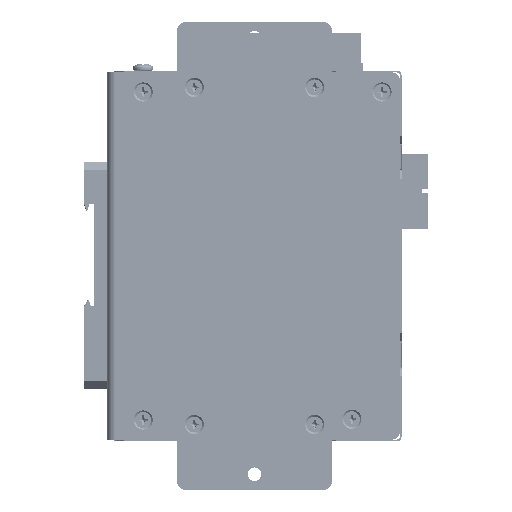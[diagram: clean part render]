
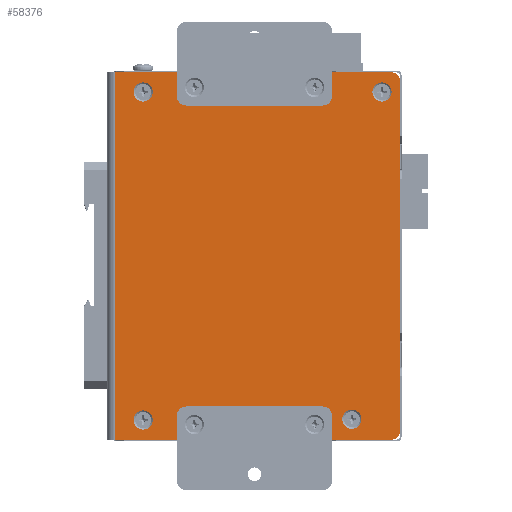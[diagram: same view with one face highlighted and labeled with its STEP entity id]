
A CAD part, left-side view. The second image highlights one B-rep face of the part: STEP entity #58376.
In plain terms, the highlighted planar face has unit normal (-1, 0, 0).
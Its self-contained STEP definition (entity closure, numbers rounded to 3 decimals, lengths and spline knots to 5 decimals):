
#2520=CIRCLE('',#64615,0.00324);
#2521=CIRCLE('',#64616,0.00324);
#2522=CIRCLE('',#64617,0.00324);
#2523=CIRCLE('',#64618,0.00324);
#2524=CIRCLE('',#64619,0.00324);
#2525=CIRCLE('',#64620,0.00324);
#2526=CIRCLE('',#64621,0.00324);
#2527=CIRCLE('',#64622,0.00324);
#2528=CIRCLE('',#64623,0.00254);
#2529=CIRCLE('',#64624,0.00254);
#4840=LINE('',#96763,#11073);
#4844=LINE('',#96772,#11077);
#4850=LINE('',#96786,#11083);
#4852=LINE('',#96808,#11085);
#11073=VECTOR('',#72437,1.);
#11077=VECTOR('',#72443,1.);
#11083=VECTOR('',#72451,1.);
#11085=VECTOR('',#72475,1.);
#20606=ORIENTED_EDGE('',*,*,#35247,.F.);
#20607=ORIENTED_EDGE('',*,*,#35248,.F.);
#20608=ORIENTED_EDGE('',*,*,#35249,.F.);
#20609=ORIENTED_EDGE('',*,*,#35250,.F.);
#20610=ORIENTED_EDGE('',*,*,#35251,.F.);
#20611=ORIENTED_EDGE('',*,*,#35252,.F.);
#20612=ORIENTED_EDGE('',*,*,#35253,.F.);
#20613=ORIENTED_EDGE('',*,*,#35254,.F.);
#20614=ORIENTED_EDGE('',*,*,#35245,.F.);
#20615=ORIENTED_EDGE('',*,*,#35255,.T.);
#20616=ORIENTED_EDGE('',*,*,#35235,.T.);
#20617=ORIENTED_EDGE('',*,*,#35256,.T.);
#20618=ORIENTED_EDGE('',*,*,#35239,.T.);
#20619=ORIENTED_EDGE('',*,*,#35257,.F.);
#35235=EDGE_CURVE('',#43043,#43044,#4840,.T.);
#35239=EDGE_CURVE('',#43047,#43048,#4844,.T.);
#35245=EDGE_CURVE('',#43053,#43054,#4850,.T.);
#35247=EDGE_CURVE('',#43055,#43055,#2520,.T.);
#35248=EDGE_CURVE('',#43056,#43056,#2521,.T.);
#35249=EDGE_CURVE('',#43057,#43057,#2522,.T.);
#35250=EDGE_CURVE('',#43058,#43058,#2523,.T.);
#35251=EDGE_CURVE('',#43059,#43059,#2524,.T.);
#35252=EDGE_CURVE('',#43060,#43060,#2525,.T.);
#35253=EDGE_CURVE('',#43061,#43061,#2526,.T.);
#35254=EDGE_CURVE('',#43062,#43062,#2527,.T.);
#35255=EDGE_CURVE('',#43053,#43043,#2528,.T.);
#35256=EDGE_CURVE('',#43044,#43047,#2529,.T.);
#35257=EDGE_CURVE('',#43054,#43048,#4852,.F.);
#43043=VERTEX_POINT('',#96764);
#43044=VERTEX_POINT('',#96765);
#43047=VERTEX_POINT('',#96773);
#43048=VERTEX_POINT('',#96774);
#43053=VERTEX_POINT('',#96785);
#43054=VERTEX_POINT('',#96787);
#43055=VERTEX_POINT('',#96791);
#43056=VERTEX_POINT('',#96793);
#43057=VERTEX_POINT('',#96795);
#43058=VERTEX_POINT('',#96797);
#43059=VERTEX_POINT('',#96799);
#43060=VERTEX_POINT('',#96801);
#43061=VERTEX_POINT('',#96803);
#43062=VERTEX_POINT('',#96805);
#48815=EDGE_LOOP('',(#20606));
#48816=EDGE_LOOP('',(#20607));
#48817=EDGE_LOOP('',(#20608));
#48818=EDGE_LOOP('',(#20609));
#48819=EDGE_LOOP('',(#20610));
#48820=EDGE_LOOP('',(#20611));
#48821=EDGE_LOOP('',(#20612));
#48822=EDGE_LOOP('',(#20613));
#48823=EDGE_LOOP('',(#20614,#20615,#20616,#20617,#20618,#20619));
#52816=FACE_BOUND('',#48815,.T.);
#52817=FACE_BOUND('',#48816,.T.);
#52818=FACE_BOUND('',#48817,.T.);
#52819=FACE_BOUND('',#48818,.T.);
#52820=FACE_BOUND('',#48819,.T.);
#52821=FACE_BOUND('',#48820,.T.);
#52822=FACE_BOUND('',#48821,.T.);
#52823=FACE_BOUND('',#48822,.T.);
#52824=FACE_BOUND('',#48823,.T.);
#55787=PLANE('',#64614);
#58376=ADVANCED_FACE('',(#52816,#52817,#52818,#52819,#52820,#52821,#52822,
#52823,#52824),#55787,.T.);
#64614=AXIS2_PLACEMENT_3D('',#96789,#72453,#72454);
#64615=AXIS2_PLACEMENT_3D('',#96790,#72455,#72456);
#64616=AXIS2_PLACEMENT_3D('',#96792,#72457,#72458);
#64617=AXIS2_PLACEMENT_3D('',#96794,#72459,#72460);
#64618=AXIS2_PLACEMENT_3D('',#96796,#72461,#72462);
#64619=AXIS2_PLACEMENT_3D('',#96798,#72463,#72464);
#64620=AXIS2_PLACEMENT_3D('',#96800,#72465,#72466);
#64621=AXIS2_PLACEMENT_3D('',#96802,#72467,#72468);
#64622=AXIS2_PLACEMENT_3D('',#96804,#72469,#72470);
#64623=AXIS2_PLACEMENT_3D('',#96806,#72471,#72472);
#64624=AXIS2_PLACEMENT_3D('',#96807,#72473,#72474);
#72437=DIRECTION('',(0.,0.,1.));
#72443=DIRECTION('',(0.,1.,0.));
#72451=DIRECTION('',(0.,1.,0.));
#72453=DIRECTION('',(-1.,0.,0.));
#72454=DIRECTION('',(0.,0.,1.));
#72455=DIRECTION('',(-1.,0.,0.));
#72456=DIRECTION('',(0.,0.,1.));
#72457=DIRECTION('',(-1.,0.,0.));
#72458=DIRECTION('',(0.,0.,1.));
#72459=DIRECTION('',(-1.,0.,0.));
#72460=DIRECTION('',(0.,0.,1.));
#72461=DIRECTION('',(-1.,0.,0.));
#72462=DIRECTION('',(0.,0.,1.));
#72463=DIRECTION('',(-1.,0.,0.));
#72464=DIRECTION('',(0.,0.,1.));
#72465=DIRECTION('',(-1.,0.,0.));
#72466=DIRECTION('',(0.,0.,1.));
#72467=DIRECTION('',(-1.,0.,0.));
#72468=DIRECTION('',(0.,0.,1.));
#72469=DIRECTION('',(-1.,0.,0.));
#72470=DIRECTION('',(0.,0.,1.));
#72471=DIRECTION('',(-1.,0.,0.));
#72472=DIRECTION('',(0.,0.,1.));
#72473=DIRECTION('',(-1.,0.,0.));
#72474=DIRECTION('',(0.,0.,1.));
#72475=DIRECTION('',(0.,0.,-1.));
#96763=CARTESIAN_POINT('',(-0.01524,-0.09703,0.));
#96764=CARTESIAN_POINT('',(-0.01524,-0.09703,-0.05944));
#96765=CARTESIAN_POINT('',(-0.01524,-0.09703,0.05944));
#96772=CARTESIAN_POINT('',(-0.01524,-0.09703,0.06198));
#96773=CARTESIAN_POINT('',(-0.01524,-0.09449,0.06198));
#96774=CARTESIAN_POINT('',(-0.01524,-0.00102,0.06198));
#96785=CARTESIAN_POINT('',(-0.01524,-0.09449,-0.06198));
#96786=CARTESIAN_POINT('',(-0.01524,-0.09703,-0.06198));
#96787=CARTESIAN_POINT('',(-0.01524,-0.00102,-0.06198));
#96789=CARTESIAN_POINT('',(-0.01524,-0.09703,0.));
#96790=CARTESIAN_POINT('',(-0.01524,-0.02769,0.0569));
#96791=CARTESIAN_POINT('',(-0.01524,-0.02769,0.06013));
#96792=CARTESIAN_POINT('',(-0.01524,-0.06833,0.0569));
#96793=CARTESIAN_POINT('',(-0.01524,-0.06833,0.06013));
#96794=CARTESIAN_POINT('',(-0.01524,-0.09106,0.05537));
#96795=CARTESIAN_POINT('',(-0.01524,-0.09106,0.05861));
#96796=CARTESIAN_POINT('',(-0.01524,-0.0809,-0.05512));
#96797=CARTESIAN_POINT('',(-0.01524,-0.0809,-0.05188));
#96798=CARTESIAN_POINT('',(-0.01524,-0.06833,-0.0569));
#96799=CARTESIAN_POINT('',(-0.01524,-0.06833,-0.05366));
#96800=CARTESIAN_POINT('',(-0.01524,-0.02769,-0.0569));
#96801=CARTESIAN_POINT('',(-0.01524,-0.02769,-0.05366));
#96802=CARTESIAN_POINT('',(-0.01524,-0.01041,-0.05537));
#96803=CARTESIAN_POINT('',(-0.01524,-0.01041,-0.05213));
#96804=CARTESIAN_POINT('',(-0.01524,-0.01041,0.05537));
#96805=CARTESIAN_POINT('',(-0.01524,-0.01041,0.05861));
#96806=CARTESIAN_POINT('',(-0.01524,-0.09449,-0.05944));
#96807=CARTESIAN_POINT('',(-0.01524,-0.09449,0.05944));
#96808=CARTESIAN_POINT('',(-0.01524,-0.00102,0.));
